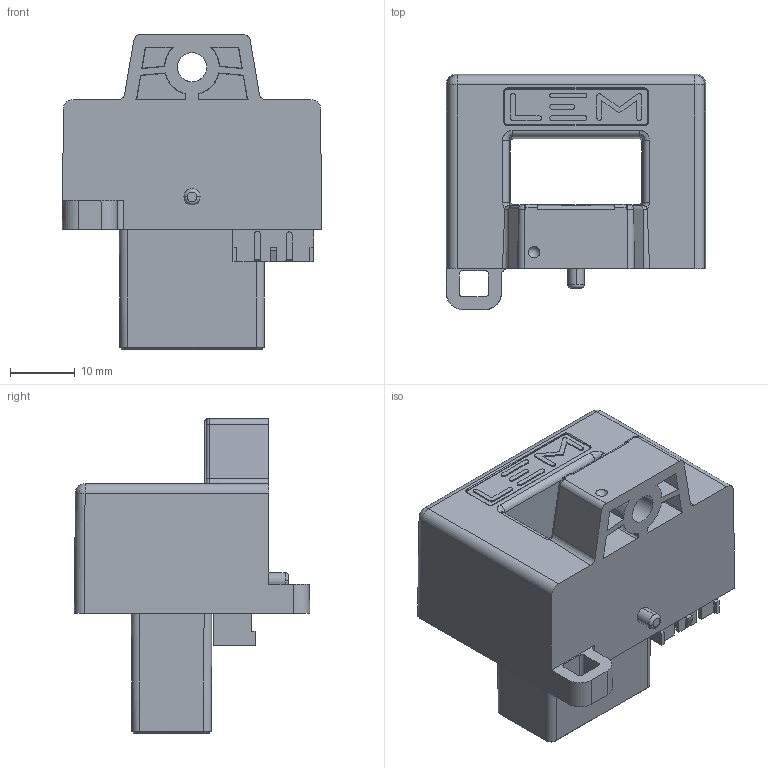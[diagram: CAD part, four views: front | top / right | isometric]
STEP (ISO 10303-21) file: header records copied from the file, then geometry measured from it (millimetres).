
FILE_DESCRIPTION(('Creo Elements/Direct Modeling STEP Export'),'2;1');
FILE_NAME('59 bbox.stp','2024-10-21T15:18:58',(''),(''),'Creo Elements/Direct Modeling STEP processor for AP214 (Solid Model)','Creo Elements/Direct Modeling 20.3D 14-Nov-2022 (C) Parametric Technology GmbH','');
FILE_SCHEMA(('AUTOMOTIVE_DESIGN { 1 0 10303 214 1 1 1 1 }'));
Length unit declared in the file: millimetre
Products named in the file (2): HAS 500 S SP59 BBOX
Assembly tree (1 placements, depth 2):
  HAS 500 S SP59 BBOX
    HAS 500 S SP59 BBOX
Bounding box: 40 x 36.3 x 48.5 mm (x, y, z)
Volume: 22064.7 mm3; surface area: 11183.4 mm2
Topology: 1 solids, 20 shells, 672 faces, 1795 edges, 1175 vertices
Faces by surface type: plane 463, cylinder 112, bspline 46, cone 36, torus 12, sphere 3
Entity records: 26604 total; most frequent: CARTESIAN_POINT 8489, ORIENTED_EDGE 3584, DIRECTION 2804, EDGE_CURVE 1792, VECTOR 1236, LINE 1236, VERTEX_POINT 1175, AXIS2_PLACEMENT_3D 784
